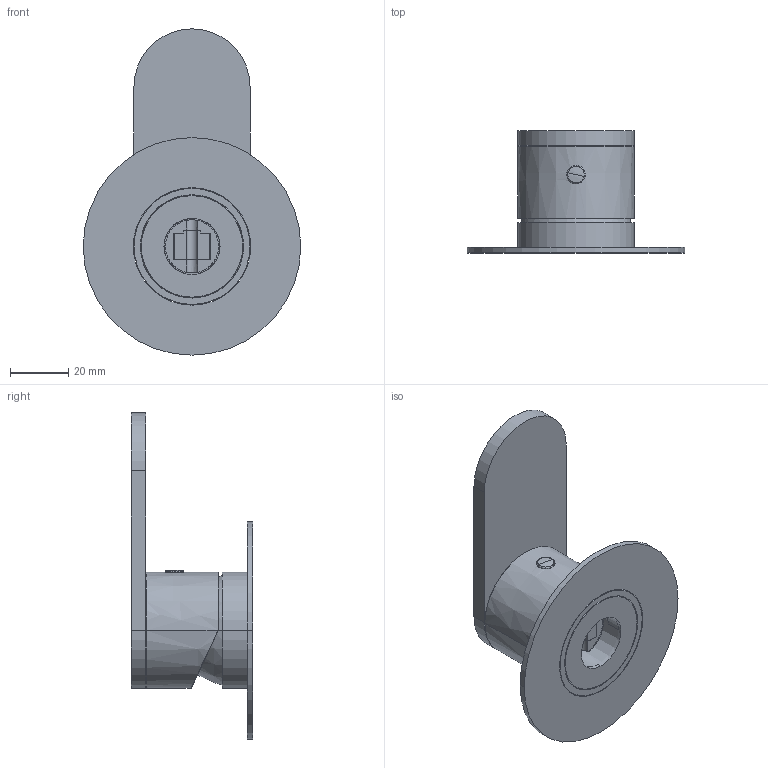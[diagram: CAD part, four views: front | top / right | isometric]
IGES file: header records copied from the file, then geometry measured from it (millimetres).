
Start section:  PTC IGES file: 79417.igs
Global section: file name: 79417.igs; native system: Creo Parametric by PTC Inc.; preprocessor: 2025443; author: carloff; organization: Unknown; date: 20261005.151108; units: millimetre
Bounding box: 75 x 42 x 112.5 mm (x, y, z)
Surface area: 32203 mm2 (no closed solid volume)
Topology: 0 solids, 0 shells, 471 faces, 2700 edges, 2696 vertices
Faces by surface type: revolution 269, bspline 202
